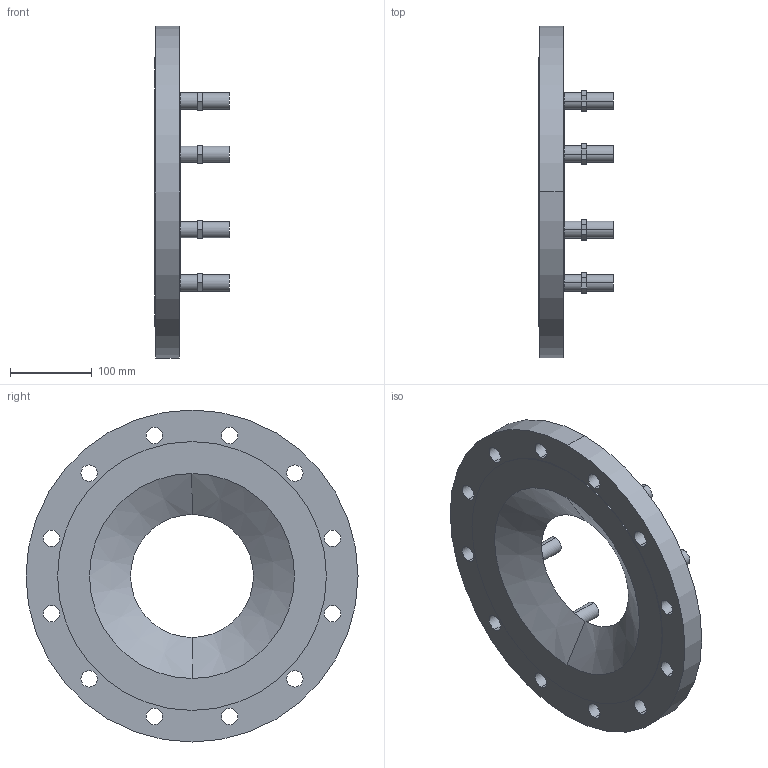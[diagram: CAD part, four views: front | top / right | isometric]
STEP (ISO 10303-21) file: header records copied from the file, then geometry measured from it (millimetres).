
FILE_DESCRIPTION(('STEP AP214'),'1');
FILE_NAME('S:/EK/USER/CAT6/3DHomepage_27-04-2012/VDI-Rohrsysteme_und_Stahlrohre/0802_(8110)/0802_PN16_DN250_DN150.STP','2013-01-25T07:59:59',(' '),(' '),'Spatial InterOp 3D',' ',' ');
FILE_SCHEMA(('automotive_design'));
Length unit declared in the file: millimetre
Products named in the file (18): 3D-Objekt
Bounding box: 91 x 405 x 405 mm (x, y, z)
Volume: 2926491.3 mm3; surface area: 386354.1 mm2
Topology: 18 solids, 18 shells, 135 faces, 294 edges, 196 vertices
Faces by surface type: plane 85, cylinder 48, cone 2
Entity records: 5260 total; most frequent: DIRECTION 700, CARTESIAN_POINT 643, ORIENTED_EDGE 588, EDGE_CURVE 294, AXIS2_PLACEMENT_3D 253, VERTEX_POINT 196, LINE 194, VECTOR 194
